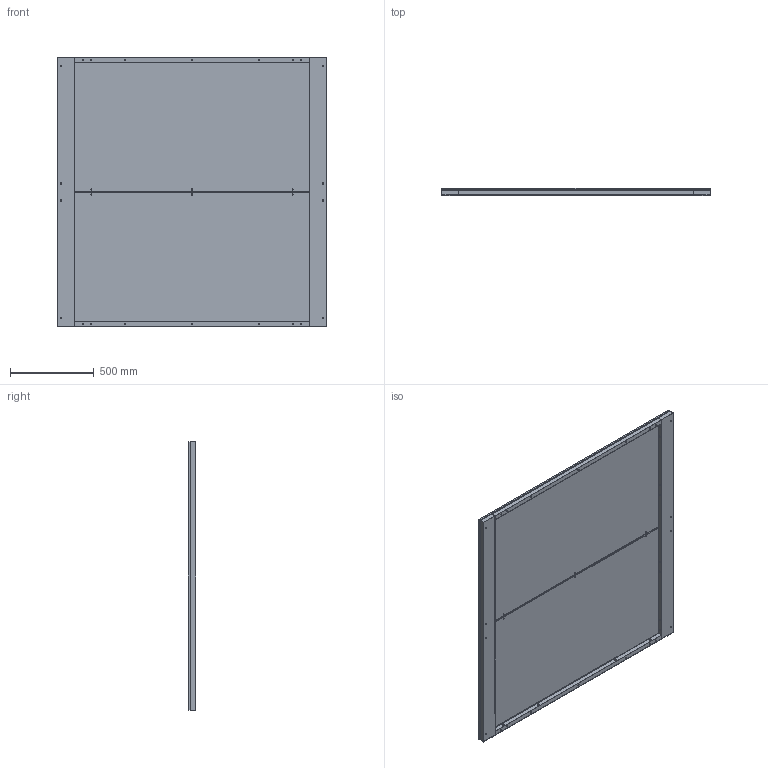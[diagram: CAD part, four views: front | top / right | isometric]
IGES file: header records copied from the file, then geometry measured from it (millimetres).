
Start section: SolidWorks IGES file using NURBS representation for surfaces
Global section: file name: G:\VICCARBE\PRODUCTOS\12-LEG-IN\04-MODELADOS (PLANOS)\SOLIDWORKS\LEG_IN 2011\ENSAMBLAJES\Mesas 3D\IGES\VICCARBE_LEB160x160C.IGS; native system: SolidWorks 2009; preprocessor: SolidWorks 2009; author: RUBEN; date: 111024.095922; units: millimetre
Bounding box: 1600 x 42 x 1600 mm (x, y, z)
Surface area: 7495077.2 mm2 (no closed solid volume)
Topology: 0 solids, 0 shells, 282 faces, 5376 edges, 5328 vertices
Faces by surface type: bspline 282
